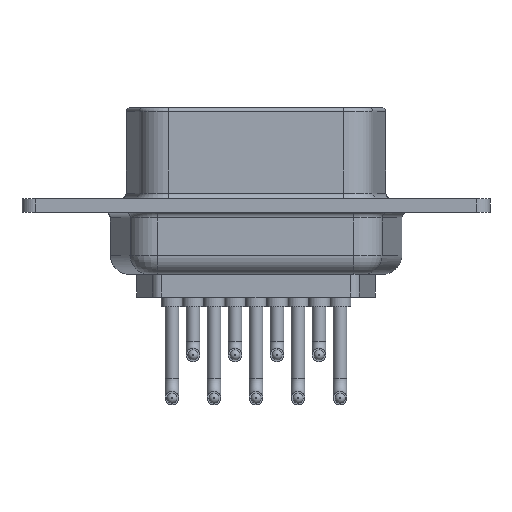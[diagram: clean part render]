
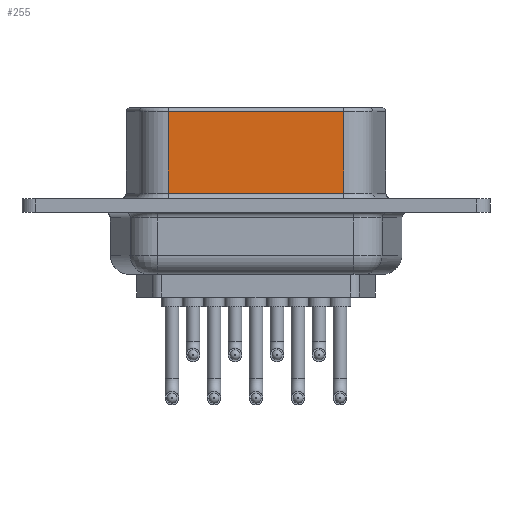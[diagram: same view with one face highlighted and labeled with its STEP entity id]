
A CAD part, front view. The second image highlights one B-rep face of the part: STEP entity #255.
In plain terms, the highlighted planar face has unit normal (0, -1, 0).
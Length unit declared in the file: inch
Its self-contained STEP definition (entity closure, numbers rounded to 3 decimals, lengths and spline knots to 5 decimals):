
#29 = PLANE ( 'NONE',  #5744 ) ;
#255 = ADVANCED_FACE ( 'NONE', ( #850 ), #29, .F. ) ;
#304 = LINE ( 'NONE', #810, #3328 ) ;
#543 = ORIENTED_EDGE ( 'NONE', *, *, #6266, .T. ) ;
#551 = VERTEX_POINT ( 'NONE', #4103 ) ;
#768 = CARTESIAN_POINT ( 'NONE',  ( 0.37956, 0.0775, 0.226 ) ) ;
#810 = CARTESIAN_POINT ( 'NONE',  ( 0.83344, 0.0775, 0.236 ) ) ;
#850 = FACE_OUTER_BOUND ( 'NONE', #2536, .T. ) ;
#1645 = DIRECTION ( 'NONE',  ( 1., 0., 0. ) ) ;
#2163 = CARTESIAN_POINT ( 'NONE',  ( 0.83344, 0.0775, 0.236 ) ) ;
#2345 = DIRECTION ( 'NONE',  ( 0., 0., 1. ) ) ;
#2366 = VERTEX_POINT ( 'NONE', #768 ) ;
#2536 = EDGE_LOOP ( 'NONE', ( #6134, #3317, #6323, #543 ) ) ;
#2766 = EDGE_CURVE ( 'NONE', #4273, #551, #6602, .T. ) ;
#2804 = VECTOR ( 'NONE', #3052, 39.37008 ) ;
#2805 = LINE ( 'NONE', #3202, #4122 ) ;
#2870 = DIRECTION ( 'NONE',  ( 0., 1., 0. ) ) ;
#3052 = DIRECTION ( 'NONE',  ( -1., 0., 0. ) ) ;
#3202 = CARTESIAN_POINT ( 'NONE',  ( 0.37956, 0.0775, 0.236 ) ) ;
#3317 = ORIENTED_EDGE ( 'NONE', *, *, #2766, .T. ) ;
#3328 = VECTOR ( 'NONE', #4759, 39.37008 ) ;
#3615 = VECTOR ( 'NONE', #1645, 39.37008 ) ;
#3755 = DIRECTION ( 'NONE',  ( 0., 0., -1. ) ) ;
#4025 = EDGE_CURVE ( 'NONE', #2366, #4273, #2805, .T. ) ;
#4103 = CARTESIAN_POINT ( 'NONE',  ( 0.83344, 0.0775, 0.015 ) ) ;
#4122 = VECTOR ( 'NONE', #3755, 39.37008 ) ;
#4273 = VERTEX_POINT ( 'NONE', #6310 ) ;
#4289 = LINE ( 'NONE', #6990, #2804 ) ;
#4759 = DIRECTION ( 'NONE',  ( 0., 0., -1. ) ) ;
#4994 = CARTESIAN_POINT ( 'NONE',  ( 0.83344, 0.0775, 0.015 ) ) ;
#5382 = EDGE_CURVE ( 'NONE', #5948, #551, #304, .T. ) ;
#5744 = AXIS2_PLACEMENT_3D ( 'NONE', #2163, #2870, #2345 ) ;
#5948 = VERTEX_POINT ( 'NONE', #7161 ) ;
#6134 = ORIENTED_EDGE ( 'NONE', *, *, #4025, .T. ) ;
#6266 = EDGE_CURVE ( 'NONE', #5948, #2366, #4289, .T. ) ;
#6310 = CARTESIAN_POINT ( 'NONE',  ( 0.37956, 0.0775, 0.015 ) ) ;
#6323 = ORIENTED_EDGE ( 'NONE', *, *, #5382, .F. ) ;
#6602 = LINE ( 'NONE', #4994, #3615 ) ;
#6990 = CARTESIAN_POINT ( 'NONE',  ( 0.83344, 0.0775, 0.226 ) ) ;
#7161 = CARTESIAN_POINT ( 'NONE',  ( 0.83344, 0.0775, 0.226 ) ) ;
